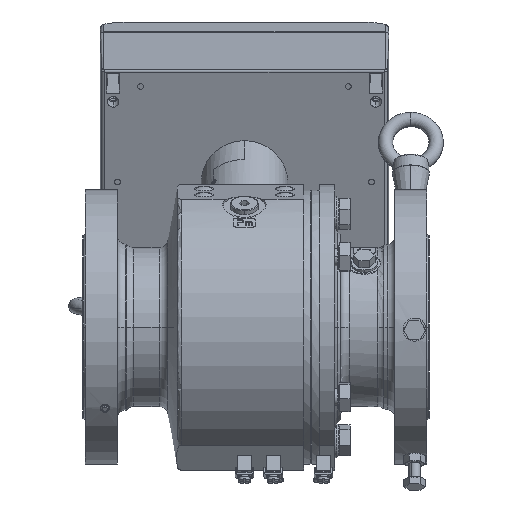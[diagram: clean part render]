
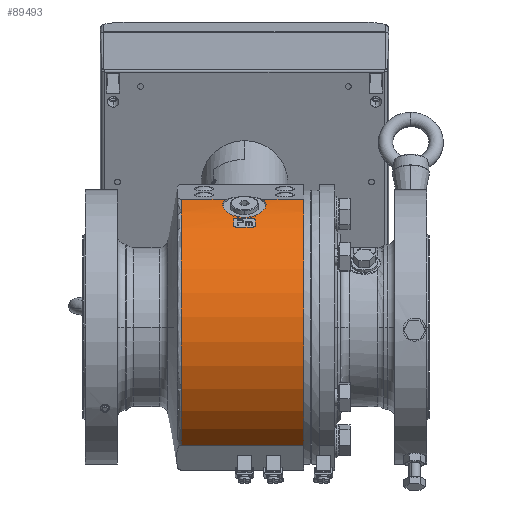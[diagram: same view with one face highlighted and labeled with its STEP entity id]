
A CAD part, front view. The second image highlights one B-rep face of the part: STEP entity #89493.
In plain terms, the highlighted cylindrical face has radius 99 mm (diameter 198 mm), a partial arc.
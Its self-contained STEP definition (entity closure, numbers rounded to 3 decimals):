
#17491=DIRECTION('',(-1.,0.,0.));
#17492=VECTOR('',#17491,28.404);
#17493=CARTESIAN_POINT('',(41.,-43.834,88.767));
#17494=LINE('4592',#17493,#17492);
#17498=CARTESIAN_POINT('',(41.,0.,0.));
#17499=DIRECTION('',(1.,0.,0.));
#17500=DIRECTION('',(0.,-0.443,0.897));
#17501=AXIS2_PLACEMENT_3D('',#17498,#17499,#17500);
#17506=DIRECTION('',(-1.,0.,0.));
#17507=VECTOR('',#17506,84.724);
#17508=CARTESIAN_POINT('',(41.,-55.85,-81.742));
#17509=LINE('4583',#17508,#17507);
#17513=DIRECTION('',(-1.,0.,0.));
#17514=VECTOR('',#17513,31.128);
#17515=CARTESIAN_POINT('',(-12.596,-43.834,
88.767));
#17516=LINE('4593',#17515,#17514);
#17865=CARTESIAN_POINT('',(-43.724,0.,0.));
#17866=DIRECTION('',(1.,0.,0.));
#17867=DIRECTION('',(0.,-0.443,0.897));
#17868=AXIS2_PLACEMENT_3D('',#17865,#17866,#17867);
#32399=CARTESIAN_POINT('',(12.596,-43.834,
88.767));
#32400=CARTESIAN_POINT('',(12.748,-44.045,
88.663));
#32401=CARTESIAN_POINT('',(13.038,-44.474,
88.449));
#32402=CARTESIAN_POINT('',(13.433,-45.135,
88.113));
#32403=CARTESIAN_POINT('',(13.785,-45.811,
87.764));
#32404=CARTESIAN_POINT('',(14.094,-46.5,
87.401));
#32405=CARTESIAN_POINT('',(14.359,-47.198,
87.026));
#32406=CARTESIAN_POINT('',(14.579,-47.905,
86.639));
#32407=CARTESIAN_POINT('',(14.754,-48.616,
86.242));
#32408=CARTESIAN_POINT('',(14.884,-49.332,
85.835));
#32409=CARTESIAN_POINT('',(14.968,-50.048,
85.419));
#32410=CARTESIAN_POINT('',(15.005,-50.764,
84.996));
#32411=CARTESIAN_POINT('',(14.997,-51.477,
84.566));
#32412=CARTESIAN_POINT('',(14.942,-52.184,
84.131));
#32413=CARTESIAN_POINT('',(14.842,-52.886,
83.692));
#32414=CARTESIAN_POINT('',(14.695,-53.577,
83.251));
#32415=CARTESIAN_POINT('',(14.503,-54.258,
82.809));
#32416=CARTESIAN_POINT('',(14.266,-54.926,
82.367));
#32417=CARTESIAN_POINT('',(13.985,-55.58,
81.927));
#32418=CARTESIAN_POINT('',(13.66,-56.217,
81.491));
#32419=CARTESIAN_POINT('',(13.292,-56.836,
81.061));
#32420=CARTESIAN_POINT('',(12.882,-57.435,
80.637));
#32421=CARTESIAN_POINT('',(12.432,-58.011,
80.224));
#32422=CARTESIAN_POINT('',(11.942,-58.565,
79.82));
#32423=CARTESIAN_POINT('',(11.415,-59.093,
79.43));
#32424=CARTESIAN_POINT('',(10.851,-59.595,
79.054));
#32425=CARTESIAN_POINT('',(10.254,-60.069,
78.695));
#32426=CARTESIAN_POINT('',(9.625,-60.513,
78.353));
#32427=CARTESIAN_POINT('',(8.965,-60.927,
78.032));
#32428=CARTESIAN_POINT('',(8.279,-61.31,
77.732));
#32429=CARTESIAN_POINT('',(7.566,-61.66,
77.454));
#32430=CARTESIAN_POINT('',(6.831,-61.977,
77.201));
#32431=CARTESIAN_POINT('',(6.075,-62.26,
76.972));
#32432=CARTESIAN_POINT('',(5.301,-62.508,
76.771));
#32433=CARTESIAN_POINT('',(4.512,-62.722,
76.596));
#32434=CARTESIAN_POINT('',(3.709,-62.901,
76.449));
#32435=CARTESIAN_POINT('',(2.896,-63.044,
76.331));
#32436=CARTESIAN_POINT('',(2.074,-63.151,
76.242));
#32437=CARTESIAN_POINT('',(1.247,-63.223,
76.183));
#32438=CARTESIAN_POINT('',(0.416,-63.259,
76.153));
#32439=CARTESIAN_POINT('',(-0.416,-63.259,
76.153));
#32440=CARTESIAN_POINT('',(-1.247,-63.223,
76.183));
#32441=CARTESIAN_POINT('',(-2.074,-63.151,
76.242));
#32442=CARTESIAN_POINT('',(-2.896,-63.044,
76.331));
#32443=CARTESIAN_POINT('',(-3.709,-62.901,
76.449));
#32444=CARTESIAN_POINT('',(-4.512,-62.722,
76.596));
#32445=CARTESIAN_POINT('',(-5.301,-62.508,
76.771));
#32446=CARTESIAN_POINT('',(-6.075,-62.26,
76.972));
#32447=CARTESIAN_POINT('',(-6.831,-61.977,
77.201));
#32448=CARTESIAN_POINT('',(-7.566,-61.66,
77.454));
#32449=CARTESIAN_POINT('',(-8.279,-61.31,
77.732));
#32450=CARTESIAN_POINT('',(-8.965,-60.927,
78.032));
#32451=CARTESIAN_POINT('',(-9.625,-60.513,
78.353));
#32452=CARTESIAN_POINT('',(-10.254,-60.069,
78.695));
#32453=CARTESIAN_POINT('',(-10.851,-59.595,
79.054));
#32454=CARTESIAN_POINT('',(-11.415,-59.093,
79.43));
#32455=CARTESIAN_POINT('',(-11.942,-58.565,
79.82));
#32456=CARTESIAN_POINT('',(-12.432,-58.011,
80.224));
#32457=CARTESIAN_POINT('',(-12.882,-57.435,
80.637));
#32458=CARTESIAN_POINT('',(-13.292,-56.836,
81.061));
#32459=CARTESIAN_POINT('',(-13.66,-56.217,
81.491));
#32460=CARTESIAN_POINT('',(-13.985,-55.58,
81.927));
#32461=CARTESIAN_POINT('',(-14.266,-54.926,
82.367));
#32462=CARTESIAN_POINT('',(-14.503,-54.258,
82.809));
#32463=CARTESIAN_POINT('',(-14.695,-53.577,
83.251));
#32464=CARTESIAN_POINT('',(-14.842,-52.886,
83.692));
#32465=CARTESIAN_POINT('',(-14.942,-52.184,
84.131));
#32466=CARTESIAN_POINT('',(-14.997,-51.477,
84.566));
#32467=CARTESIAN_POINT('',(-15.005,-50.764,
84.996));
#32468=CARTESIAN_POINT('',(-14.968,-50.048,
85.419));
#32469=CARTESIAN_POINT('',(-14.884,-49.332,
85.835));
#32470=CARTESIAN_POINT('',(-14.754,-48.616,
86.242));
#32471=CARTESIAN_POINT('',(-14.579,-47.905,
86.639));
#32472=CARTESIAN_POINT('',(-14.359,-47.198,
87.026));
#32473=CARTESIAN_POINT('',(-14.094,-46.5,
87.401));
#32474=CARTESIAN_POINT('',(-13.785,-45.811,
87.764));
#32475=CARTESIAN_POINT('',(-13.433,-45.135,
88.113));
#32476=CARTESIAN_POINT('',(-13.038,-44.474,
88.449));
#32477=CARTESIAN_POINT('',(-12.748,-44.045,
88.663));
#32478=CARTESIAN_POINT('',(-12.596,-43.834,
88.767));
#67904=CARTESIAN_POINT('',(41.,-55.85,-81.742));
#67905=CARTESIAN_POINT('',(-43.724,-55.85,
-81.742));
#67906=VERTEX_POINT('',#67904);
#67907=VERTEX_POINT('',#67905);
#67912=CARTESIAN_POINT('',(41.,-43.834,88.767));
#67913=CARTESIAN_POINT('',(12.596,-43.834,
88.767));
#67914=VERTEX_POINT('',#67912);
#67915=VERTEX_POINT('',#67913);
#67916=CARTESIAN_POINT('',(-12.596,-43.834,
88.767));
#67917=CARTESIAN_POINT('',(-43.724,-43.834,
88.767));
#67918=VERTEX_POINT('',#67916);
#67919=VERTEX_POINT('',#67917);
#89476=CARTESIAN_POINT('',(58.3,0.,0.));
#89477=DIRECTION('',(-1.,0.,0.));
#89478=DIRECTION('',(0.,1.,0.));
#89479=AXIS2_PLACEMENT_3D('',#89476,#89477,#89478);
#89480=CYLINDRICAL_SURFACE('3999',#89479,99.);
#89481=ORIENTED_EDGE('4592',*,*,#89423,.F.);
#89483=ORIENTED_EDGE('4597',*,*,#89482,.T.);
#89485=ORIENTED_EDGE('4583',*,*,#89484,.T.);
#89487=ORIENTED_EDGE('4599',*,*,#89486,.F.);
#89488=ORIENTED_EDGE('4593',*,*,#89431,.F.);
#89490=ORIENTED_EDGE('4621',*,*,#89489,.F.);
#89491=EDGE_LOOP('3999',(#89481,#89483,#89485,#89487,#89488,#89490));
#89492=FACE_OUTER_BOUND('3999',#89491,.F.);
#17502=CIRCLE('4597',#17501,99.);
#17869=CIRCLE('4599',#17868,99.);
#32479=B_SPLINE_CURVE_WITH_KNOTS('4621',3,(#32399,#32400,#32401,#32402,#32403,
#32404,#32405,#32406,#32407,#32408,#32409,#32410,#32411,#32412,#32413,#32414,
#32415,#32416,#32417,#32418,#32419,#32420,#32421,#32422,#32423,#32424,#32425,
#32426,#32427,#32428,#32429,#32430,#32431,#32432,#32433,#32434,#32435,#32436,
#32437,#32438,#32439,#32440,#32441,#32442,#32443,#32444,#32445,#32446,#32447,
#32448,#32449,#32450,#32451,#32452,#32453,#32454,#32455,#32456,#32457,#32458,
#32459,#32460,#32461,#32462,#32463,#32464,#32465,#32466,#32467,#32468,#32469,
#32470,#32471,#32472,#32473,#32474,#32475,#32476,#32477,#32478),.UNSPECIFIED.,
.F.,.F.,(4,1,1,1,1,1,1,1,1,1,1,1,1,1,1,1,1,1,1,1,1,1,1,1,1,1,1,1,1,1,1,1,1,1,1,
1,1,1,1,1,1,1,1,1,1,1,1,1,1,1,1,1,1,1,1,1,1,1,1,1,1,1,1,1,1,1,1,1,1,1,1,1,1,1,1,
1,1,4),(0.,0.013,0.026,0.039,
0.052,0.065,0.078,0.091,
0.104,0.117,0.13,0.143,
0.156,0.169,0.182,0.195,
0.208,0.221,0.234,0.247,
0.26,0.273,0.286,0.299,
0.312,0.325,0.338,0.351,
0.364,0.377,0.39,0.403,
0.416,0.429,0.442,0.455,
0.468,0.481,0.494,0.506,
0.519,0.532,0.545,0.558,
0.571,0.584,0.597,0.61,
0.623,0.636,0.649,0.662,
0.675,0.688,0.701,0.714,
0.727,0.74,0.753,0.766,
0.779,0.792,0.805,0.818,
0.831,0.844,0.857,0.87,
0.883,0.896,0.909,0.922,
0.935,0.948,0.961,0.974,
0.987,1.),.UNSPECIFIED.);
#89423=EDGE_CURVE('4592',#67914,#67915,#17494,.T.);
#89431=EDGE_CURVE('4593',#67918,#67919,#17516,.T.);
#89482=EDGE_CURVE('4597',#67914,#67906,#17502,.T.);
#89484=EDGE_CURVE('4583',#67906,#67907,#17509,.T.);
#89486=EDGE_CURVE('4599',#67919,#67907,#17869,.T.);
#89489=EDGE_CURVE('4621',#67915,#67918,#32479,.T.);
#89493=ADVANCED_FACE('3999',(#89492),#89480,.T.);
